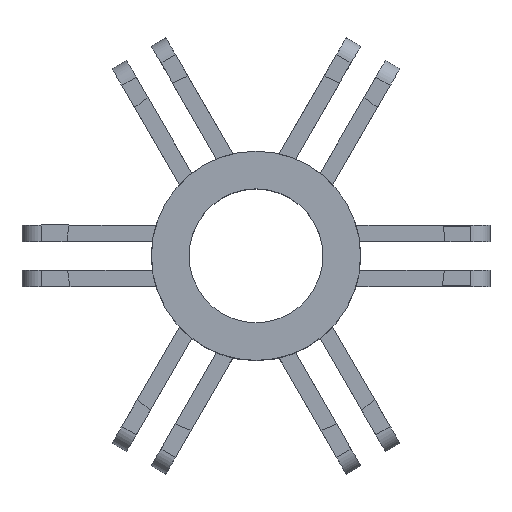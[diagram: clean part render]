
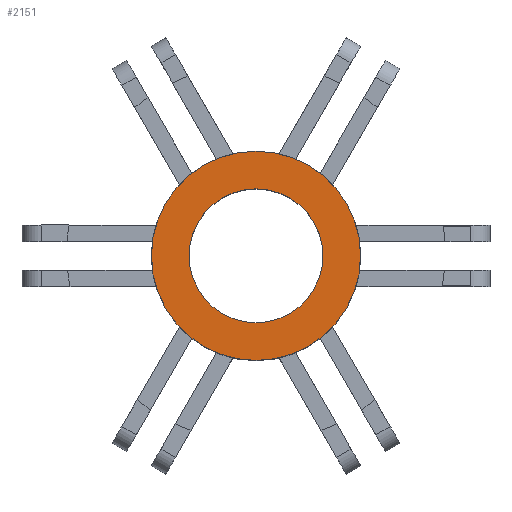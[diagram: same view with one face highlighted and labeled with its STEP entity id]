
A CAD part, top view. The second image highlights one B-rep face of the part: STEP entity #2151.
In plain terms, the highlighted planar face has unit normal (0, 0, 1).
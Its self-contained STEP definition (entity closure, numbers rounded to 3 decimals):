
#15=FACE_BOUND('',#298,.T.);
#87=PLANE('',#2315);
#179=FACE_OUTER_BOUND('',#297,.T.);
#297=EDGE_LOOP('',(#1615));
#298=EDGE_LOOP('',(#1616));
#855=CIRCLE('',#2316,12.5);
#856=CIRCLE('',#2317,8.);
#1035=VERTEX_POINT('',#3405);
#1036=VERTEX_POINT('',#3407);
#1271=EDGE_CURVE('',#1035,#1035,#855,.T.);
#1272=EDGE_CURVE('',#1036,#1036,#856,.T.);
#1615=ORIENTED_EDGE('',*,*,#1271,.T.);
#1616=ORIENTED_EDGE('',*,*,#1272,.T.);
#2151=ADVANCED_FACE('',(#179,#15),#87,.T.);
#2315=AXIS2_PLACEMENT_3D('',#3404,#2719,#2720);
#2316=AXIS2_PLACEMENT_3D('',#3406,#2721,#2722);
#2317=AXIS2_PLACEMENT_3D('',#3408,#2723,#2724);
#2719=DIRECTION('center_axis',(0.,0.,1.));
#2720=DIRECTION('ref_axis',(1.,0.,0.));
#2721=DIRECTION('center_axis',(0.,0.,1.));
#2722=DIRECTION('ref_axis',(1.,0.,0.));
#2723=DIRECTION('center_axis',(0.,0.,-1.));
#2724=DIRECTION('ref_axis',(-1.,0.,0.));
#3404=CARTESIAN_POINT('Origin',(0.,0.,26.002));
#3405=CARTESIAN_POINT('',(-12.5,0.,26.002));
#3406=CARTESIAN_POINT('Origin',(0.,0.,26.002));
#3407=CARTESIAN_POINT('',(8.,0.,26.002));
#3408=CARTESIAN_POINT('Origin',(0.,0.,26.002));
